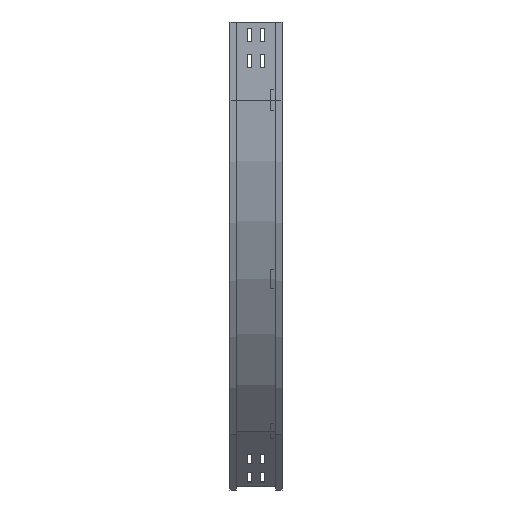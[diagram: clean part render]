
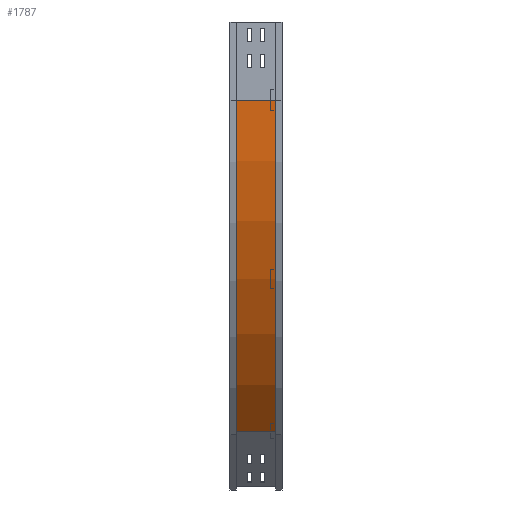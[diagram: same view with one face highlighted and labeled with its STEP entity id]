
A CAD part, left-side view. The second image highlights one B-rep face of the part: STEP entity #1787.
In plain terms, the highlighted cylindrical face has radius 900 mm (diameter 1800 mm), a partial arc.
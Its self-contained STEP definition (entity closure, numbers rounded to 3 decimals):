
#46 = VECTOR ( 'NONE', #113, 1000. ) ;
#113 = DIRECTION ( 'NONE',  ( 0., -1., 0. ) ) ;
#359 = CARTESIAN_POINT ( 'NONE',  ( 909., 0., -150. ) ) ;
#562 = DIRECTION ( 'NONE',  ( 0., -1., 0. ) ) ;
#586 = CARTESIAN_POINT ( 'NONE',  ( 909., 88., -150. ) ) ;
#946 = AXIS2_PLACEMENT_3D ( 'NONE', #359, #1053, #2440 ) ;
#1053 = DIRECTION ( 'NONE',  ( 0., -1., 0. ) ) ;
#1209 = VERTEX_POINT ( 'NONE', #3319 ) ;
#1242 = VECTOR ( 'NONE', #2511, 1000. ) ;
#1412 = CYLINDRICAL_SURFACE ( 'NONE', #946, 900. ) ;
#1561 = EDGE_CURVE ( 'NONE', #1209, #2814, #2539, .T. ) ;
#1628 = DIRECTION ( 'NONE',  ( -1., 0., 0. ) ) ;
#1765 = AXIS2_PLACEMENT_3D ( 'NONE', #586, #562, #1628 ) ;
#1787 = ADVANCED_FACE ( 'NONE', ( #4495 ), #1412, .T. ) ;
#1821 = EDGE_CURVE ( 'NONE', #2782, #3972, #3930, .T. ) ;
#2099 = DIRECTION ( 'NONE',  ( 0., -1., 0. ) ) ;
#2109 = ORIENTED_EDGE ( 'NONE', *, *, #3330, .T. ) ;
#2122 = DIRECTION ( 'NONE',  ( -1., 0., 0. ) ) ;
#2440 = DIRECTION ( 'NONE',  ( 0., 0., -1. ) ) ;
#2511 = DIRECTION ( 'NONE',  ( 0., -1., 0. ) ) ;
#2539 = LINE ( 'NONE', #3913, #46 ) ;
#2565 = CARTESIAN_POINT ( 'NONE',  ( 272.604, 88., -786.396 ) ) ;
#2719 = CARTESIAN_POINT ( 'NONE',  ( 272.604, 12., -786.396 ) ) ;
#2782 = VERTEX_POINT ( 'NONE', #2565 ) ;
#2814 = VERTEX_POINT ( 'NONE', #3978 ) ;
#2847 = ORIENTED_EDGE ( 'NONE', *, *, #1561, .F. ) ;
#3319 = CARTESIAN_POINT ( 'NONE',  ( 9., 88., -150. ) ) ;
#3330 = EDGE_CURVE ( 'NONE', #1209, #2782, #3719, .T. ) ;
#3719 = CIRCLE ( 'NONE', #1765, 900. ) ;
#3726 = ORIENTED_EDGE ( 'NONE', *, *, #4405, .F. ) ;
#3730 = EDGE_LOOP ( 'NONE', ( #3726, #2847, #2109, #4117 ) ) ;
#3834 = CARTESIAN_POINT ( 'NONE',  ( 909., 12., -150. ) ) ;
#3862 = CARTESIAN_POINT ( 'NONE',  ( 272.604, 12., -786.396 ) ) ;
#3913 = CARTESIAN_POINT ( 'NONE',  ( 9., 12., -150. ) ) ;
#3930 = LINE ( 'NONE', #3862, #1242 ) ;
#3972 = VERTEX_POINT ( 'NONE', #2719 ) ;
#3978 = CARTESIAN_POINT ( 'NONE',  ( 9., 12., -150. ) ) ;
#3994 = CIRCLE ( 'NONE', #4068, 900. ) ;
#4068 = AXIS2_PLACEMENT_3D ( 'NONE', #3834, #2099, #2122 ) ;
#4117 = ORIENTED_EDGE ( 'NONE', *, *, #1821, .T. ) ;
#4405 = EDGE_CURVE ( 'NONE', #2814, #3972, #3994, .T. ) ;
#4495 = FACE_OUTER_BOUND ( 'NONE', #3730, .T. ) ;
